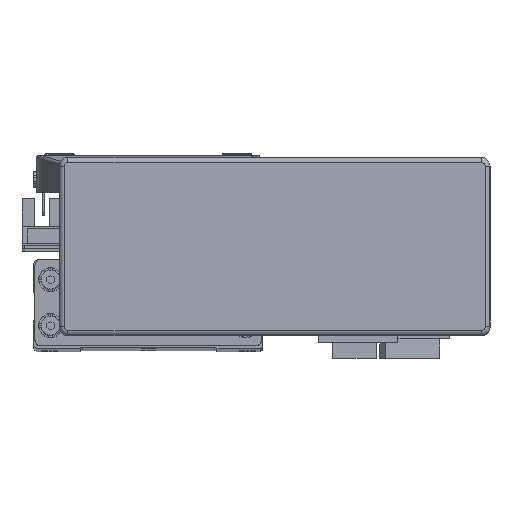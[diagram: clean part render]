
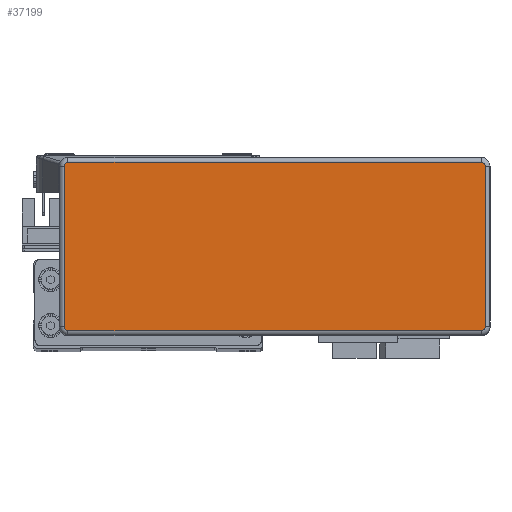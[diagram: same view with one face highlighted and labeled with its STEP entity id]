
A CAD part, top view. The second image highlights one B-rep face of the part: STEP entity #37199.
In plain terms, the highlighted planar face has unit normal (0, 0, 1) as drawn and (0, 0, -1) by its records, which use the part's own axes.
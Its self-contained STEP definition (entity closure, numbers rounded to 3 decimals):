
#2791 = CARTESIAN_POINT ( 'NONE',  ( 71.995, -27.995, -32.2 ) ) ;
#2822 = DIRECTION ( 'NONE',  ( 1., 0., 0. ) ) ;
#2826 = PLANE ( 'NONE',  #29289 ) ;
#2831 = DIRECTION ( 'NONE',  ( 0., 0., 1. ) ) ;
#5784 = CARTESIAN_POINT ( 'NONE',  ( 73.295, -27.995, -32.2 ) ) ;
#5830 = CARTESIAN_POINT ( 'NONE',  ( -71.995, 29.295, -32.2 ) ) ;
#5839 = CARTESIAN_POINT ( 'NONE',  ( -73.295, -27.995, -32.2 ) ) ;
#5855 = CARTESIAN_POINT ( 'NONE',  ( -71.995, -29.295, -32.2 ) ) ;
#5875 = CARTESIAN_POINT ( 'NONE',  ( 73.295, 27.995, -32.2 ) ) ;
#5887 = CARTESIAN_POINT ( 'NONE',  ( 71.995, -29.295, -32.2 ) ) ;
#5893 = CARTESIAN_POINT ( 'NONE',  ( 71.995, 29.295, -32.2 ) ) ;
#5911 = CARTESIAN_POINT ( 'NONE',  ( -73.295, 27.995, -32.2 ) ) ;
#10119 = ORIENTED_EDGE ( 'NONE', *, *, #10727, .T. ) ;
#10124 = ORIENTED_EDGE ( 'NONE', *, *, #10627, .T. ) ;
#10135 = ORIENTED_EDGE ( 'NONE', *, *, #10650, .T. ) ;
#10141 = ORIENTED_EDGE ( 'NONE', *, *, #10645, .T. ) ;
#10146 = ORIENTED_EDGE ( 'NONE', *, *, #10602, .T. ) ;
#10149 = ORIENTED_EDGE ( 'NONE', *, *, #10636, .T. ) ;
#10170 = ORIENTED_EDGE ( 'NONE', *, *, #10657, .T. ) ;
#10193 = ORIENTED_EDGE ( 'NONE', *, *, #10708, .T. ) ;
#10602 = EDGE_CURVE ( 'NONE', #15741, #15846, #41177, .T. ) ;
#10627 = EDGE_CURVE ( 'NONE', #15846, #15826, #41194, .T. ) ;
#10636 = EDGE_CURVE ( 'NONE', #15798, #15853, #41153, .T. ) ;
#10645 = EDGE_CURVE ( 'NONE', #15853, #15805, #41203, .T. ) ;
#10650 = EDGE_CURVE ( 'NONE', #15819, #15741, #41202, .T. ) ;
#10657 = EDGE_CURVE ( 'NONE', #15826, #15798, #41222, .T. ) ;
#10708 = EDGE_CURVE ( 'NONE', #15805, #15822, #41294, .T. ) ;
#10727 = EDGE_CURVE ( 'NONE', #15822, #15819, #41385, .T. ) ;
#15741 = VERTEX_POINT ( 'NONE', #5784 ) ;
#15798 = VERTEX_POINT ( 'NONE', #5839 ) ;
#15805 = VERTEX_POINT ( 'NONE', #5830 ) ;
#15819 = VERTEX_POINT ( 'NONE', #5875 ) ;
#15822 = VERTEX_POINT ( 'NONE', #5893 ) ;
#15826 = VERTEX_POINT ( 'NONE', #5855 ) ;
#15846 = VERTEX_POINT ( 'NONE', #5887 ) ;
#15853 = VERTEX_POINT ( 'NONE', #5911 ) ;
#16188 = DIRECTION ( 'NONE',  ( 1., 0., 0. ) ) ;
#16214 = CARTESIAN_POINT ( 'NONE',  ( 71.995, 29.295, -32.2 ) ) ;
#16226 = CARTESIAN_POINT ( 'NONE',  ( 71.995, 27.995, -32.2 ) ) ;
#16230 = DIRECTION ( 'NONE',  ( 0., 0., -1. ) ) ;
#16238 = DIRECTION ( 'NONE',  ( 1., 0., 0. ) ) ;
#17343 = FACE_OUTER_BOUND ( 'NONE', #29271, .T. ) ;
#29271 = EDGE_LOOP ( 'NONE', ( #10135, #10146, #10124, #10170, #10149, #10141, #10193, #10119 ) ) ;
#29289 = AXIS2_PLACEMENT_3D ( 'NONE', #2791, #2831, #2822 ) ;
#29799 = AXIS2_PLACEMENT_3D ( 'NONE', #35452, #35466, #35467 ) ;
#29814 = AXIS2_PLACEMENT_3D ( 'NONE', #35362, #35334, #35305 ) ;
#29843 = AXIS2_PLACEMENT_3D ( 'NONE', #35530, #35503, #35538 ) ;
#29875 = AXIS2_PLACEMENT_3D ( 'NONE', #16226, #16230, #16238 ) ;
#35305 = DIRECTION ( 'NONE',  ( 1., 0., 0. ) ) ;
#35334 = DIRECTION ( 'NONE',  ( 0., 0., -1. ) ) ;
#35362 = CARTESIAN_POINT ( 'NONE',  ( 71.995, -27.995, -32.2 ) ) ;
#35378 = CARTESIAN_POINT ( 'NONE',  ( 71.995, -29.295, -32.2 ) ) ;
#35416 = DIRECTION ( 'NONE',  ( -1., 0., 0. ) ) ;
#35431 = CARTESIAN_POINT ( 'NONE',  ( 73.295, -27.995, -32.2 ) ) ;
#35432 = DIRECTION ( 'NONE',  ( 0., -1., 0. ) ) ;
#35452 = CARTESIAN_POINT ( 'NONE',  ( -71.995, 27.995, -32.2 ) ) ;
#35466 = DIRECTION ( 'NONE',  ( 0., 0., -1. ) ) ;
#35467 = DIRECTION ( 'NONE',  ( 1., 0., 0. ) ) ;
#35481 = DIRECTION ( 'NONE',  ( 0., 1., 0. ) ) ;
#35483 = CARTESIAN_POINT ( 'NONE',  ( -73.295, -27.995, -32.2 ) ) ;
#35503 = DIRECTION ( 'NONE',  ( 0., 0., -1. ) ) ;
#35530 = CARTESIAN_POINT ( 'NONE',  ( -71.995, -27.995, -32.2 ) ) ;
#35538 = DIRECTION ( 'NONE',  ( 1., 0., 0. ) ) ;
#37199 = ADVANCED_FACE ( 'NONE', ( #17343 ), #2826, .F. ) ;
#41153 = LINE ( 'NONE', #35483, #41155 ) ;
#41155 = VECTOR ( 'NONE', #35481, 1000. ) ;
#41174 = VECTOR ( 'NONE', #35416, 1000. ) ;
#41177 = CIRCLE ( 'NONE', #29814, 1.3 ) ;
#41194 = LINE ( 'NONE', #35378, #41174 ) ;
#41202 = LINE ( 'NONE', #35431, #41247 ) ;
#41203 = CIRCLE ( 'NONE', #29799, 1.3 ) ;
#41222 = CIRCLE ( 'NONE', #29843, 1.3 ) ;
#41247 = VECTOR ( 'NONE', #35432, 1000. ) ;
#41284 = VECTOR ( 'NONE', #16188, 1000. ) ;
#41294 = LINE ( 'NONE', #16214, #41284 ) ;
#41385 = CIRCLE ( 'NONE', #29875, 1.3 ) ;
